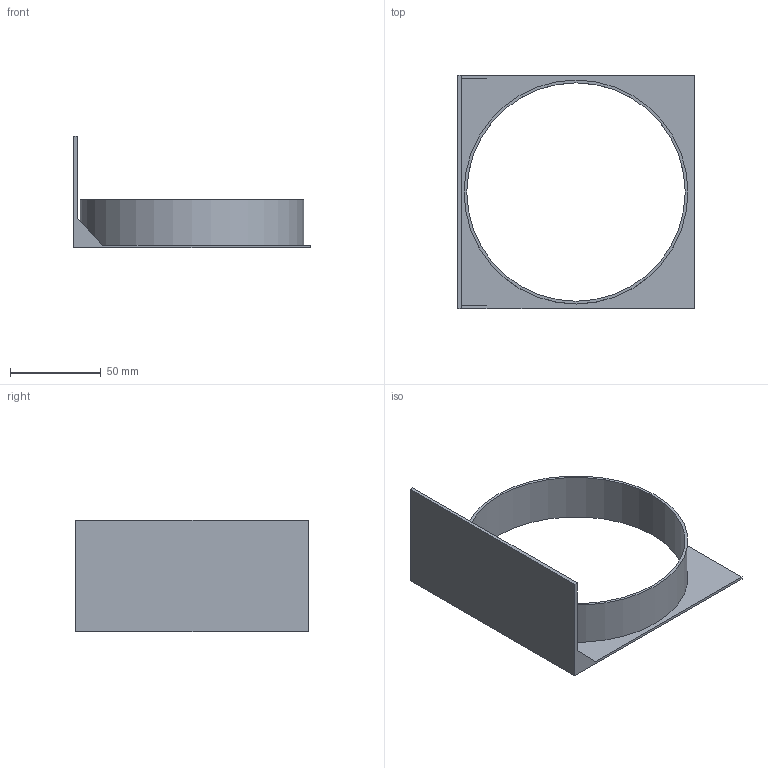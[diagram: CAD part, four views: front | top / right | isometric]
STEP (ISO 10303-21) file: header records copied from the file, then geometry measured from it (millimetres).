
FILE_DESCRIPTION(/* description */ (''),/* implementation_level */ '2;1');
FILE_NAME(/* name */ 'D:/3d/Fusion360/Air Filter Flange II v3.step',/* time_stamp */ '2019-03-25T17:08:12+00:00',/* author */ ('ianXTAPJ'),/* organization */ (''),/* preprocessor_version */ 'ST-DEVELOPER v17.2',/* originating_system */ 'Autodesk Translation Framework v7.6.0.251',/* authorisation */ '');
FILE_SCHEMA (('AUTOMOTIVE_DESIGN { 1 0 10303 214 3 1 1 }'));
Length unit declared in the file: millimetre
Products named in the file (1): Air Filter Flange II
Bounding box: 130 x 128 x 61.5 mm (x, y, z)
Volume: 37975.1 mm3; surface area: 47067.9 mm2
Topology: 1 solids, 1 shells, 15 faces, 39 edges, 27 vertices
Faces by surface type: plane 13, cylinder 2
Full cylindrical faces by diameter (mm): 120 x1, 123 x1
Entity records: 501 total; most frequent: CARTESIAN_POINT 82, ORIENTED_EDGE 78, DIRECTION 78, EDGE_CURVE 39, LINE 32, VECTOR 32, VERTEX_POINT 27, AXIS2_PLACEMENT_3D 23
